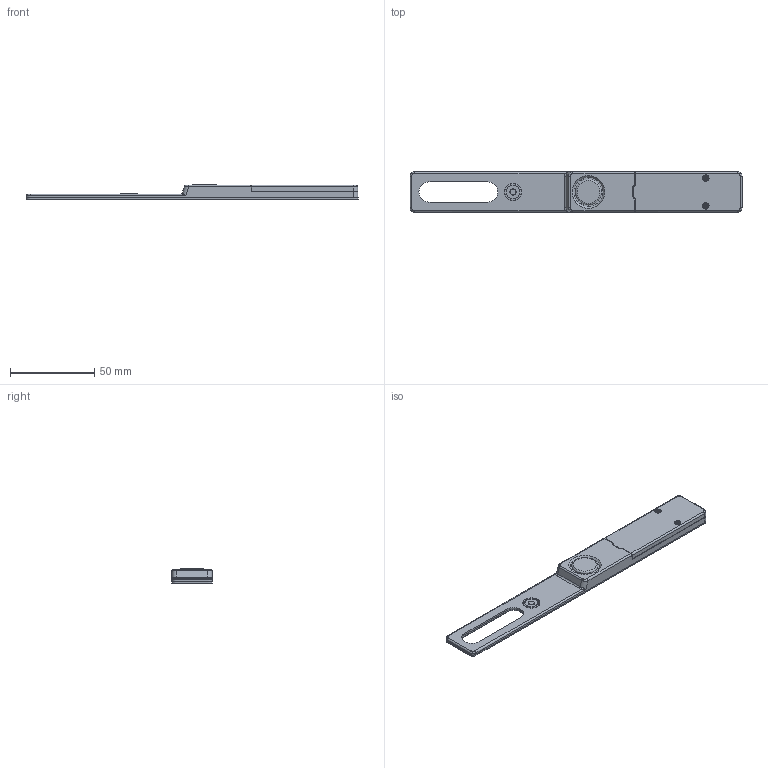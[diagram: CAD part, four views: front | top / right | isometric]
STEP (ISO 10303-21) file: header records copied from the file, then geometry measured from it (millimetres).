
FILE_DESCRIPTION(/* description */ (''),/* implementation_level */ '2;1');
FILE_NAME(/* name */ 'KNX_RF_ENO_Window_Sensor_490_secure.stp',/* time_stamp */ '2025-10-29T11:27:58+01:00',/* author */ (''),/* organization */ (''),/* preprocessor_version */ 'ST-DEVELOPER v17.2',/* originating_system */ 'Autodesk Inventor 2019',/* authorisation */ '');
FILE_SCHEMA (('AUTOMOTIVE_DESIGN { 1 0 10303 214 3 1 1 }'));
Length unit declared in the file: millimetre
Products named in the file (1): KNX_RF_ENO_Window_Sensor_490_secure
Bounding box: 197.5 x 24 x 8.57 mm (x, y, z)
Volume: 23937.7 mm3; surface area: 12005 mm2
Topology: 1 solids, 2 shells, 194 faces, 491 edges, 309 vertices
Faces by surface type: plane 82, cylinder 41, bspline 35, cone 27, torus 9
Full cylindrical faces by diameter (mm): 3.5 x1, 8 x1, 10 x1
Entity records: 7996 total; most frequent: CARTESIAN_POINT 3297, ORIENTED_EDGE 994, DIRECTION 862, EDGE_CURVE 497, AXIS2_PLACEMENT_3D 310, VERTEX_POINT 309, LINE 242, VECTOR 242
